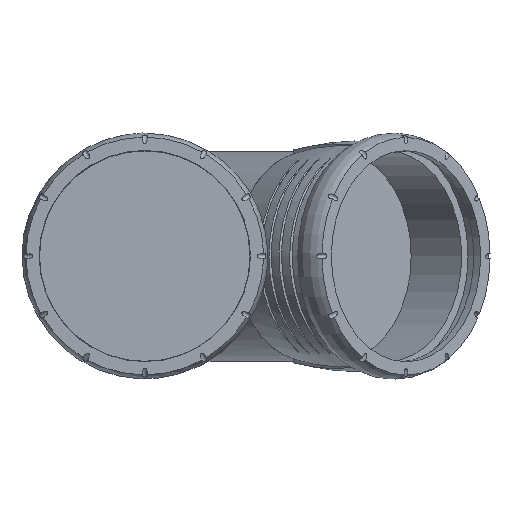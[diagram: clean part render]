
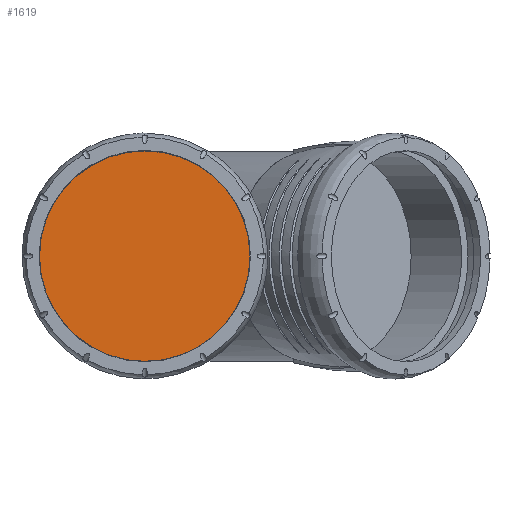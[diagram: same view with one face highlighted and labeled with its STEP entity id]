
A CAD part, top view. The second image highlights one B-rep face of the part: STEP entity #1619.
In plain terms, the highlighted planar face has unit normal (0, 0, 1).
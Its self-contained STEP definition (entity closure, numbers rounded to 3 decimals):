
#221=PLANE('',#1754);
#299=FACE_OUTER_BOUND('',#407,.T.);
#407=EDGE_LOOP('',(#1045));
#545=CIRCLE('',#1755,80.6);
#622=VERTEX_POINT('',#2320);
#796=EDGE_CURVE('',#622,#622,#545,.T.);
#1045=ORIENTED_EDGE('',*,*,#796,.T.);
#1619=ADVANCED_FACE('',(#299),#221,.T.);
#1754=AXIS2_PLACEMENT_3D('',#2319,#1959,#1960);
#1755=AXIS2_PLACEMENT_3D('',#2321,#1961,#1962);
#1959=DIRECTION('center_axis',(0.,0.,
1.));
#1960=DIRECTION('ref_axis',(0.,1.,0.));
#1961=DIRECTION('center_axis',(0.,0.,
1.));
#1962=DIRECTION('ref_axis',(0.,1.,0.));
#2319=CARTESIAN_POINT('Origin',(0.,0.,
329.11));
#2320=CARTESIAN_POINT('',(-80.6,0.,329.11));
#2321=CARTESIAN_POINT('Origin',(0.,0.,
329.11));
